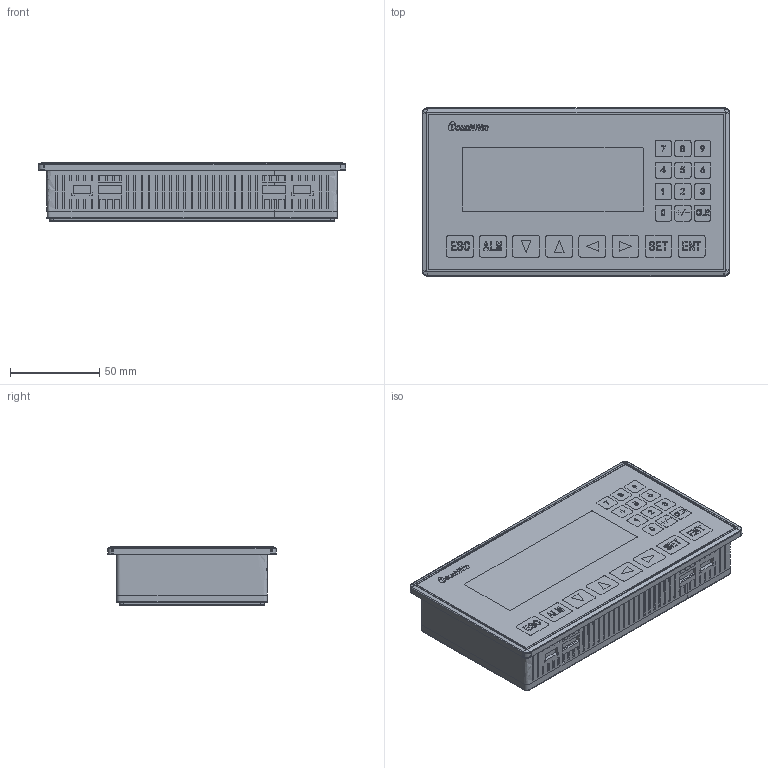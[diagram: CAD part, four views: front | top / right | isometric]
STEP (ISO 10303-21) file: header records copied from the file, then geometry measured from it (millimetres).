
FILE_DESCRIPTION(/* description */ (''),/* implementation_level */ '2;1');
FILE_NAME(/* name */ 'OP320-~1',/* time_stamp */ '2023-04-24T13:44:27+08:00',/* author */ (''),/* organization */ (''),/* preprocessor_version */ 'ST-DEVELOPER v16.5',/* originating_system */ '',/* authorisation */ '');
FILE_SCHEMA (('CONFIG_CONTROL_DESIGN'));
Length unit declared in the file: millimetre
Products named in the file (1): Document
Bounding box: 172 x 94 x 33.25 mm (x, y, z)
Volume: 424174.9 mm3; surface area: 88873.4 mm2
Topology: 1 solids, 72 shells, 1210 faces, 3199 edges, 2171 vertices
Faces by surface type: plane 1080, bspline 86, cylinder 44
Entity records: 38105 total; most frequent: CARTESIAN_POINT 16797, ORIENTED_EDGE 5906, EDGE_CURVE 3200, B_SPLINE_CURVE_WITH_KNOTS 2536, VERTEX_POINT 2172, EDGE_LOOP 1329, ADVANCED_FACE 1209, FACE_OUTER_BOUND 1209
